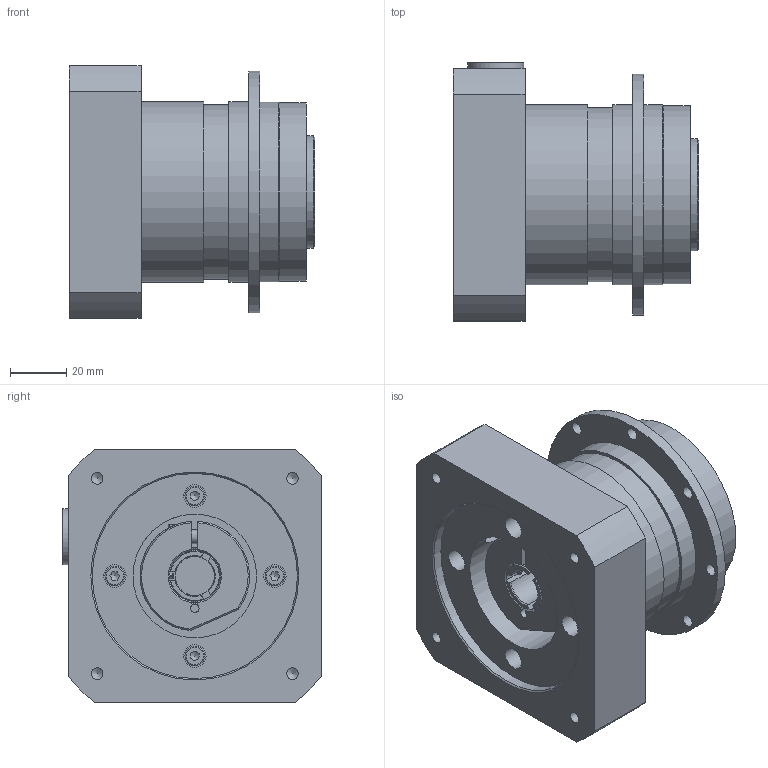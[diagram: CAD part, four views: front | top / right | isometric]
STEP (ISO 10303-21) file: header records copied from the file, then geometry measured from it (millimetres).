
FILE_DESCRIPTION(/* description */ ('EPLFE64/1'),/* implementation_level */ '2;1');
FILE_NAME(/* name */ 'G:\Eigene Dateien\3D-STEP-Modelle\Planetengetriebe\EPL-Getriebe\EPL-FE\EPLFE064\46400300XI004E14SM406X-4-14-S-(Z73,05-Tk98,4-4xM5-Vk90).stp',/* time_stamp */ '2022-02-28T15:37:09+01:00',/* author */ ('hoffermann'),/* organization */ (''),/* preprocessor_version */ 'ST-DEVELOPER v16.13',/* originating_system */ 'Autodesk Inventor 2018',/* authorisation */ '');
FILE_SCHEMA (('CONFIG_CONTROL_DESIGN'));
Length unit declared in the file: millimetre
Products named in the file (6): EPLFE64/1-46400300-1-E14-K-M406- Ä0.3; EPLFE64/1-i=4-46400300_14- Ä0.6; Motorflansch-EPLFE64-Z73,05G7-Tk98,4-4xM5-Vk90-46400406- Ä0.4; 3491-; Fächerscheibe DIN 6798-I 4,3-FSt-3137- Ä0.1; Zylinderschraube DIN 912-M4x55-8.8-A-3010- Ä1.0
Assembly tree (11 placements, depth 2):
  EPLFE64/1-46400300-1-E14-K-M406- Ä0.3
    EPLFE64/1-i=4-46400300_14- Ä0.6
    Motorflansch-EPLFE64-Z73,05G7-Tk98,4-4xM5-Vk90-46400406- Ä0.4
    3491-
    Fächerscheibe DIN 6798-I 4,3-FSt-3137- Ä0.1  x4
    Zylinderschraube DIN 912-M4x55-8.8-A-3010- Ä1.0  x4
Bounding box: 87.3 x 92 x 90 mm (x, y, z)
Volume: 358919.4 mm3; surface area: 69128.9 mm2
Topology: 11 solids, 11 shells, 470 faces, 1275 edges, 831 vertices
Faces by surface type: cylinder 228, plane 173, cone 58, torus 11
Full cylindrical faces by diameter (mm): 2.5 x1, 3.242 x4, 4 x5, 4.134 x12, 4.3 x8, 4.5 x12, 5 x2, 5.5 x1, 7 x4, 8 x8, 8.5 x1, 9 x1, 11.8 x1, 14 x3, 20 x2, 40 x1, 44 x1, 50 x2, 62 x3, 63.5 x1, 64 x1, 64.2 x2, 64.5 x1, 73.05 x1, 86 x1
Entity records: 8669 total; most frequent: CARTESIAN_POINT 1710, DIRECTION 1450, ORIENTED_EDGE 1200, AXIS2_PLACEMENT_3D 617, EDGE_CURVE 600, EDGE_LOOP 446, VERTEX_POINT 438, CIRCLE 313
